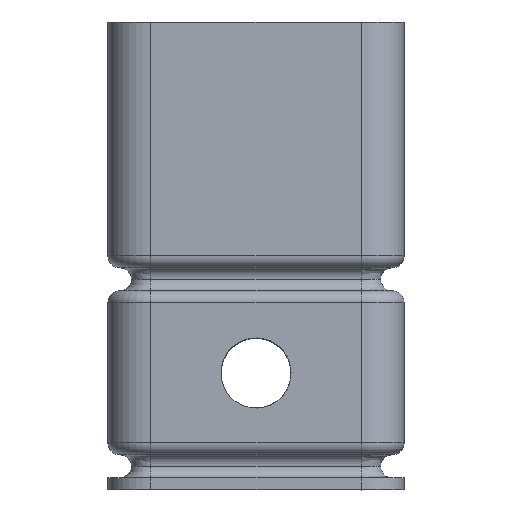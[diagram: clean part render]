
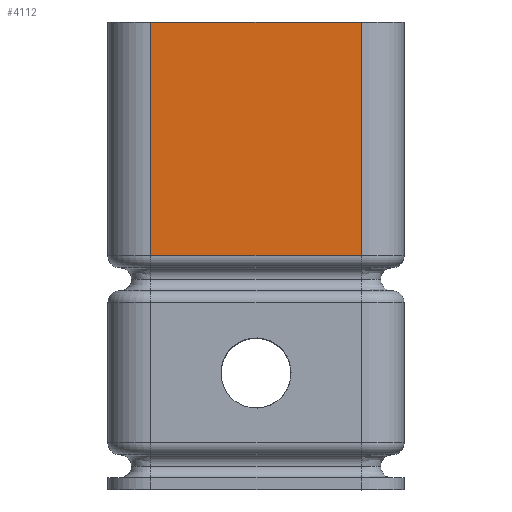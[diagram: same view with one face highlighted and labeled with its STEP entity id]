
A CAD part, top view. The second image highlights one B-rep face of the part: STEP entity #4112.
In plain terms, the highlighted planar face has unit normal (0, 0, 1).
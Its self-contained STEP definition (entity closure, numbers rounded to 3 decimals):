
#1003=CARTESIAN_POINT('',(13.5,60.,38.));
#1004=VERTEX_POINT('',#1003);
#1035=CARTESIAN_POINT('',(13.5,30.,38.));
#1036=VERTEX_POINT('',#1035);
#1037=CARTESIAN_POINT('',(13.5,60.,38.));
#1038=DIRECTION('',(0.0,-1.0,0.0));
#1039=VECTOR('',#1038,30.);
#1040=LINE('',#1037,#1039);
#1041=EDGE_CURVE('',#1004,#1036,#1040,.T.);
#4069=CARTESIAN_POINT('',(-13.5,30.,38.));
#4070=VERTEX_POINT('',#4069);
#4071=CARTESIAN_POINT('',(13.5,30.,38.));
#4072=DIRECTION('',(-1.0,0.0,0.0));
#4073=VECTOR('',#4072,27.);
#4074=LINE('',#4071,#4073);
#4075=EDGE_CURVE('',#1036,#4070,#4074,.T.);
#4089=CARTESIAN_POINT('',(28.5,60.,38.));
#4090=DIRECTION('',(0.0,0.0,1.0));
#4091=DIRECTION('',(1.0,0.0,0.0));
#4092=AXIS2_PLACEMENT_3D('',#4089,#4090,#4091);
#4093=PLANE('',#4092);
#4094=CARTESIAN_POINT('',(-13.5,60.,38.));
#4095=VERTEX_POINT('',#4094);
#4096=CARTESIAN_POINT('',(13.5,60.,38.));
#4097=DIRECTION('',(-1.0,0.0,0.0));
#4098=VECTOR('',#4097,27.);
#4099=LINE('',#4096,#4098);
#4100=EDGE_CURVE('',#1004,#4095,#4099,.T.);
#4101=ORIENTED_EDGE('',*,*,#4100,.T.);
#4102=CARTESIAN_POINT('',(-13.5,60.,38.));
#4103=DIRECTION('',(0.0,-1.0,0.0));
#4104=VECTOR('',#4103,30.);
#4105=LINE('',#4102,#4104);
#4106=EDGE_CURVE('',#4095,#4070,#4105,.T.);
#4107=ORIENTED_EDGE('',*,*,#4106,.T.);
#4108=ORIENTED_EDGE('',*,*,#4075,.F.);
#4109=ORIENTED_EDGE('',*,*,#1041,.F.);
#4110=EDGE_LOOP('',(#4101,#4107,#4108,#4109));
#4111=FACE_OUTER_BOUND('',#4110,.T.);
#4112=ADVANCED_FACE('',(#4111),#4093,.T.);
